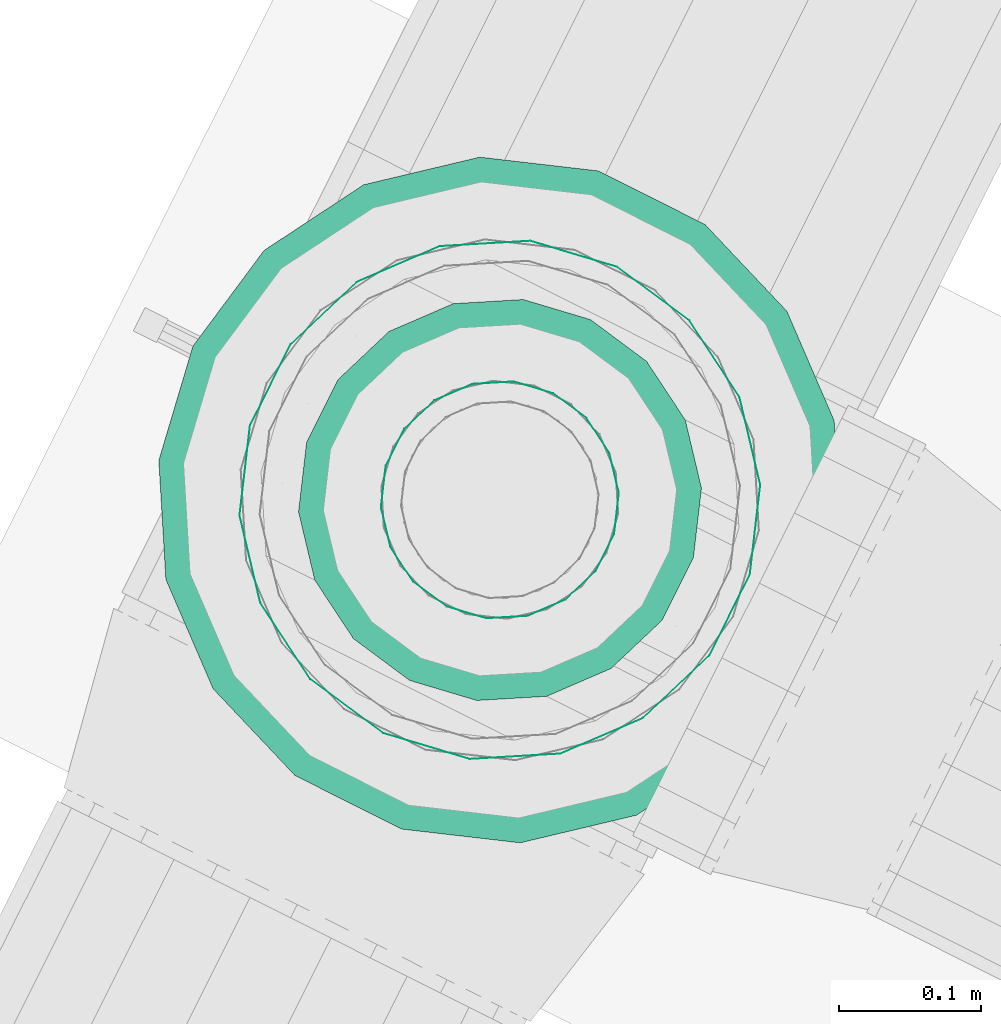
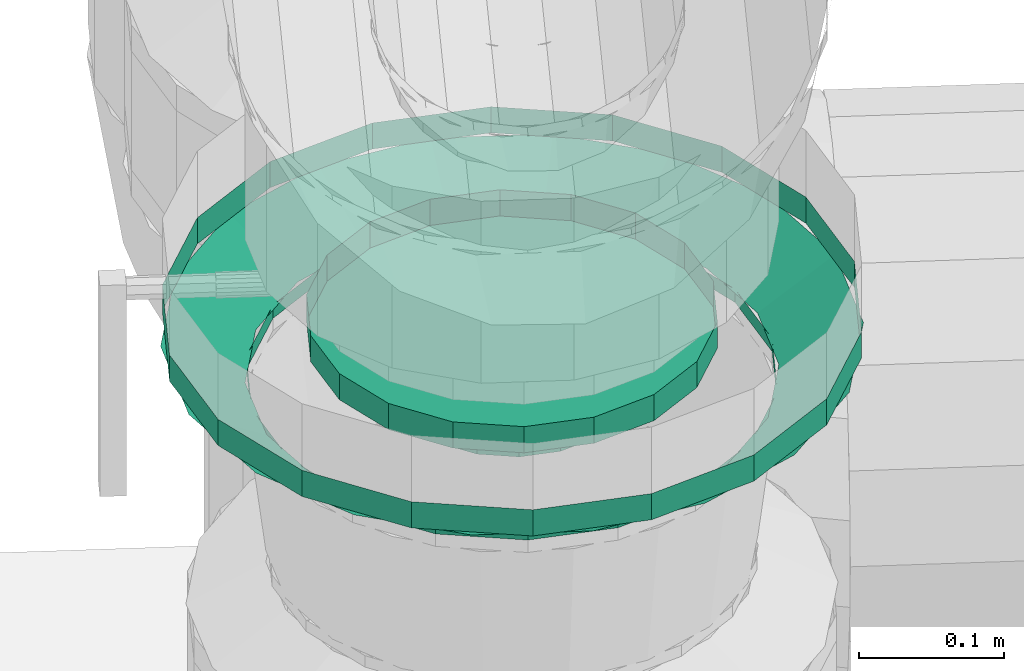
# One storey, part 108 of 152: 1 flow fitting, 1 flow segment.
"""IFC2X3 building model written with IfcOpenShell, lengths in metres."""

from ifc_helpers import new_model, si_unit, derived_unit, direction, frame, origin, place, context, subcontext, project, spatial, face_set, surface_model, source, transform, mapped, material, type_object, type_shapes, element, save


model = new_model("IFC2X3")

# Units and contexts
model_context = context("Model", 3, precision=5.2338327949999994e-05, world=origin(), true_north=direction((0.0, 1.0)))
body_context = subcontext(model_context, "Body", "Model", "MODEL_VIEW")
ifc_project = project(units=[si_unit("LENGTHUNIT", "METRE"), si_unit("AREAUNIT", "SQUARE_METRE"), si_unit("VOLUMEUNIT", "CUBIC_METRE"), si_unit("MASSUNIT", "GRAM", prefix="KILO"), si_unit("PLANEANGLEUNIT", "RADIAN"), derived_unit("THERMALTRANSMITTANCEUNIT", [(si_unit("MASSUNIT", "GRAM", prefix="KILO"), 1), (si_unit("THERMODYNAMICTEMPERATUREUNIT", "KELVIN"), -1), (si_unit("TIMEUNIT", "SECOND"), -3)])], contexts=[model_context])

# Site, building, storey
site_placement = place(None, frame((0.0, 0.0, 0.0), z_axis=(0.0, 0.0, 1.0), x_axis=(0.8939966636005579, -0.4480736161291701, 0.0)))
site = spatial("IfcSite", under=ifc_project, at=site_placement, Name="Default", CompositionType="ELEMENT")
building_placement = place(site_placement, origin())
building = spatial("IfcBuilding", under=site, at=building_placement, CompositionType="ELEMENT")
storey_placement = place(building_placement, frame((0.0, 0.0, 2.7499999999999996)))
storey = spatial("IfcBuildingStorey", under=building, at=storey_placement, Name="1. Obergeschoss", CompositionType="ELEMENT", Elevation=2.7499999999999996)

# Flow segment
ifc_material = material(Name="IfcSurfaceStyle #9317")
distribution_element_type_1 = type_object("IfcDistributionElementType", Name="Stahlrohr nach DIN 2448 236978:Stahlrohr nach DIN 2448 236978", material=ifc_material)
shared_shape_1 = source(origin(), body_context, "Body", "SurfaceModel", [
    surface_model("IfcFaceBasedSurfaceModel", [(9.625770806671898, 6.675898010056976, 4.47007198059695), (9.596989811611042, 6.670823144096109, 4.47007198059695), (9.596989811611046, 6.670823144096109, 4.481306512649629), (9.625770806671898, 6.675898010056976, 4.481306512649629), (9.571680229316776, 6.656210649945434, 4.47007198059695), (9.571680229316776, 6.656210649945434, 4.481306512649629), (9.552894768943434, 6.633823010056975, 4.47007198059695), (9.552894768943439, 6.633823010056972, 4.481306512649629), (9.542899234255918, 6.606360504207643, 4.47007198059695), (9.542899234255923, 6.606360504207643, 4.481306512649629), (9.542899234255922, 6.577135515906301, 4.47007198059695), (9.542899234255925, 6.577135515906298, 4.481306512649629), (9.552894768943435, 6.549673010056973, 4.47007198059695), (9.55289476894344, 6.549673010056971, 4.481306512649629), (9.571680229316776, 6.527285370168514, 4.47007198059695), (9.57168022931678, 6.527285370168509, 4.481306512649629), (9.59698981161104, 6.512672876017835, 4.47007198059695), (9.596989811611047, 6.512672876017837, 4.481306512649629), (9.625770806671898, 6.5075980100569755, 4.47007198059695), (9.625770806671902, 6.507598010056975, 4.481306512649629), (9.654551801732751, 6.512672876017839, 4.47007198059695), (9.654551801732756, 6.5126728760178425, 4.481306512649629), (9.679861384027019, 6.527285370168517, 4.47007198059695), (9.679861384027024, 6.527285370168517, 4.481306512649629), (9.698646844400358, 6.5496730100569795, 4.47007198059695), (9.698646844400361, 6.549673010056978, 4.481306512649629), (9.708642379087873, 6.577135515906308, 4.47007198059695), (9.708642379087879, 6.577135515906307, 4.481306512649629), (9.708642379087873, 6.606360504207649, 4.47007198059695), (9.708642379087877, 6.606360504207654, 4.481306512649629), (9.69864684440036, 6.63382301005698, 4.47007198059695), (9.69864684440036, 6.6338230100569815, 4.481306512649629), (9.67986138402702, 6.656210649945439, 4.47007198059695), (9.679861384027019, 6.656210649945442, 4.481306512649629), (9.654551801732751, 6.6708231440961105, 4.47007198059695), (9.654551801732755, 6.6708231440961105, 4.481306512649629), (9.625770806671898, 6.775898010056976, 4.47007198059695), (9.562787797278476, 6.764792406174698, 4.47007198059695), (9.562787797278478, 6.764792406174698, 4.481306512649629), (9.625770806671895, 6.775898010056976, 4.481306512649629), (9.507401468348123, 6.732815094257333, 4.47007198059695), (9.507401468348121, 6.732815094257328, 4.481306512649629), (9.466292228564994, 6.683823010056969, 4.47007198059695), (9.466292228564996, 6.683823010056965, 4.481306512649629), (9.4444184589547, 6.623725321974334, 4.47007198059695), (9.444418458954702, 6.62372532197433, 4.481306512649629), (9.444418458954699, 6.5597706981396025, 4.47007198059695), (9.444418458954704, 6.5597706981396, 4.481306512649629), (9.466292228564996, 6.499673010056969, 4.47007198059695), (9.466292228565, 6.4996730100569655, 4.481306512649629), (9.507401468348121, 6.450680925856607, 4.47007198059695), (9.507401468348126, 6.450680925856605, 4.481306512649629), (9.562787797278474, 6.418703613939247, 4.47007198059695), (9.562787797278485, 6.418703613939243, 4.481306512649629), (9.625770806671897, 6.407598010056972, 4.47007198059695), (9.625770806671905, 6.407598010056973, 4.481306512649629), (9.688753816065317, 6.418703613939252, 4.47007198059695), (9.688753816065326, 6.418703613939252, 4.481306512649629), (9.744140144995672, 6.450680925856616, 4.47007198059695), (9.74414014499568, 6.450680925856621, 4.481306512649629), (9.7852493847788, 6.499673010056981, 4.47007198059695), (9.785249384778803, 6.499673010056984, 4.481306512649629), (9.80712315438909, 6.559770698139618, 4.47007198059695), (9.807123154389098, 6.559770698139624, 4.481306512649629), (9.807123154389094, 6.623725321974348, 4.47007198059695), (9.807123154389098, 6.623725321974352, 4.481306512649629), (9.785249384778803, 6.683823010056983, 4.47007198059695), (9.785249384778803, 6.6838230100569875, 4.481306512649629), (9.744140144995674, 6.732815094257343, 4.47007198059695), (9.744140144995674, 6.732815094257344, 4.481306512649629), (9.688753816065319, 6.764792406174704, 4.47007198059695), (9.688753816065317, 6.764792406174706, 4.481306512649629)], [face_set([[[0, 1, 2, 3]], [[1, 4, 5, 2]], [[4, 6, 7, 5]], [[6, 8, 9, 7]], [[8, 10, 11, 9]], [[10, 12, 13, 11]], [[12, 14, 15, 13]], [[14, 16, 17, 15]], [[16, 18, 19, 17]], [[18, 20, 21, 19]], [[20, 22, 23, 21]], [[22, 24, 25, 23]], [[24, 26, 27, 25]], [[26, 28, 29, 27]], [[28, 30, 31, 29]], [[30, 32, 33, 31]], [[32, 34, 35, 33]], [[34, 0, 3, 35]], [[36, 37, 38, 39]], [[37, 40, 41, 38]], [[40, 42, 43, 41]], [[42, 44, 45, 43]], [[44, 46, 47, 45]], [[46, 48, 49, 47]], [[48, 50, 51, 49]], [[50, 52, 53, 51]], [[52, 54, 55, 53]], [[54, 56, 57, 55]], [[56, 58, 59, 57]], [[58, 60, 61, 59]], [[60, 62, 63, 61]], [[62, 64, 65, 63]], [[64, 66, 67, 65]], [[66, 68, 69, 67]], [[68, 70, 71, 69]], [[70, 36, 39, 71]]])]),
])
type_shapes(distribution_element_type_1, [shared_shape_1])
flow_segment_placement = place(storey_placement, frame((0.0, 0.0, -2.7499999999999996)))
element("IfcFlowSegment", 1, at=flow_segment_placement, inside=storey, type_object=distribution_element_type_1, material=ifc_material, Name="Stahlrohr nach DIN 2448", ObjectType="Stahlrohr nach DIN 2448", context=body_context, shape_type="MappedRepresentation", body=[
    mapped(shared_shape_1, transform((0.0, 0.0, 0.0), scale=1.0)),
])

# Flow fitting
distribution_element_type_2 = type_object("IfcDistributionElementType", Name="Flansch 237001:Flansch 237001", material=ifc_material)
shared_shape_2 = source(origin(), body_context, "Body", "SurfaceModel", [
    surface_model("IfcFaceBasedSurfaceModel", [(9.7099208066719, 6.591748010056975, 4.481306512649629), (9.704845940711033, 6.620529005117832, 4.481306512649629), (9.712222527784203, 6.623213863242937, 4.514306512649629), (9.717770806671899, 6.591748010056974, 4.51430651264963), (9.690233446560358, 6.645838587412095, 4.481306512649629), (9.696246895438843, 6.650884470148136, 4.514306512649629), (9.667845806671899, 6.664624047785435, 4.481306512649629), (9.6717708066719, 6.6714223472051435, 4.51430651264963), (9.64038330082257, 6.674619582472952, 4.481306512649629), (9.641746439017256, 6.682350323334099, 4.51430651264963), (9.611158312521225, 6.674619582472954, 4.481306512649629), (9.60979517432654, 6.682350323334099, 4.514306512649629), (9.583695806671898, 6.664624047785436, 4.4813065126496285), (9.579770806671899, 6.671422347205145, 4.514306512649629), (9.561308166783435, 6.645838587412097, 4.481306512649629), (9.555294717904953, 6.650884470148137, 4.514306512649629), (9.546695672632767, 6.62052900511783, 4.481306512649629), (9.539319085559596, 6.623213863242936, 4.51430651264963), (9.541620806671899, 6.591748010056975, 4.481306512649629), (9.533770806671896, 6.5917480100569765, 4.514306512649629), (9.546695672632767, 6.5629670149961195, 4.481306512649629), (9.539319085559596, 6.560282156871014, 4.514306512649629), (9.561308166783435, 6.537657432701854, 4.4813065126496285), (9.555294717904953, 6.5326115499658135, 4.514306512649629), (9.5836958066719, 6.518871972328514, 4.481306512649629), (9.5797708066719, 6.512073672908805, 4.51430651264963), (9.61115831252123, 6.508876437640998, 4.481306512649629), (9.60979517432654, 6.50114569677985, 4.51430651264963), (9.64038330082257, 6.508876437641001, 4.481306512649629), (9.641746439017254, 6.50114569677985, 4.51430651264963), (9.667845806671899, 6.5188719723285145, 4.481306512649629), (9.671770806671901, 6.512073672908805, 4.51430651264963), (9.69023344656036, 6.537657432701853, 4.481306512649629), (9.696246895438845, 6.532611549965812, 4.51430651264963), (9.704845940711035, 6.5629670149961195, 4.481306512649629), (9.712222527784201, 6.560282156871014, 4.514306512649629), (9.625770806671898, 6.449248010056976, 4.514306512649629), (9.67450867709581, 6.457841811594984, 4.514306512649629), (9.674508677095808, 6.457841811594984, 4.536306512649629), (9.6257708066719, 6.449248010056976, 4.536306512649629), (9.717368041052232, 6.482586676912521, 4.51430651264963), (9.717368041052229, 6.482586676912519, 4.536306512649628), (9.749179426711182, 6.520498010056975, 4.51430651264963), (9.749179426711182, 6.520498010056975, 4.536306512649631), (9.766105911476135, 6.5670031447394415, 4.514306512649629), (9.76610591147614, 6.567003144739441, 4.536306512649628), (9.766105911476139, 6.616492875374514, 4.514306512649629), (9.766105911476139, 6.616492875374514, 4.53630651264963), (9.749179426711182, 6.662998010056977, 4.51430651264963), (9.749179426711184, 6.662998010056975, 4.536306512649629), (9.717368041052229, 6.70090934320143, 4.514306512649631), (9.717368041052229, 6.70090934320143, 4.536306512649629), (9.674508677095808, 6.725654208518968, 4.51430651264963), (9.674508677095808, 6.725654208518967, 4.53630651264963), (9.6257708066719, 6.734248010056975, 4.51430651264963), (9.625770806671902, 6.734248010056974, 4.536306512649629), (9.577032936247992, 6.725654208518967, 4.514306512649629), (9.577032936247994, 6.725654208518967, 4.536306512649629), (9.534173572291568, 6.700909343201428, 4.514306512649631), (9.53417357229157, 6.700909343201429, 4.536306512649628), (9.502362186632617, 6.662998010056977, 4.51430651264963), (9.502362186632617, 6.662998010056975, 4.53630651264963), (9.48543570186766, 6.616492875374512, 4.51430651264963), (9.485435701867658, 6.6164928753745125, 4.536306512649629), (9.485435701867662, 6.567003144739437, 4.514306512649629), (9.485435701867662, 6.567003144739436, 4.536306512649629), (9.502362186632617, 6.520498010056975, 4.51430651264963), (9.502362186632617, 6.520498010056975, 4.53630651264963), (9.534173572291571, 6.482586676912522, 4.51430651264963), (9.534173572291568, 6.482586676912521, 4.536306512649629), (9.577032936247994, 6.457841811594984, 4.514306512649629), (9.577032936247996, 6.457841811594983, 4.536306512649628), (9.625770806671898, 6.591748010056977, 4.514306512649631), (9.8099208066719, 6.591748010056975, 4.48130651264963), (9.798815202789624, 6.654731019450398, 4.48130651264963), (9.853646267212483, 6.6746878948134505, 4.51430651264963), (9.868270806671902, 6.5917480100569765, 4.514306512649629), (9.766837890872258, 6.710117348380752, 4.481306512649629), (9.811536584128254, 6.747624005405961, 4.514306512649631), (9.7178458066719, 6.751226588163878, 4.4813065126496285), (9.747020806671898, 6.8017591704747, 4.51430651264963), (9.657748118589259, 6.773100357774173, 4.481306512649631), (9.667880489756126, 6.830563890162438, 4.514306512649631), (9.593793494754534, 6.773100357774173, 4.4813065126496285), (9.583661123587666, 6.830563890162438, 4.51430651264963), (9.533695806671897, 6.75122658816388, 4.4813065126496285), (9.504520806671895, 6.801759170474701, 4.51430651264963), (9.484703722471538, 6.710117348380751, 4.481306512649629), (9.440005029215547, 6.74762400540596, 4.51430651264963), (9.452726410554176, 6.654731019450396, 4.48130651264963), (9.397895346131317, 6.674687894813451, 4.51430651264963), (9.4416208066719, 6.5917480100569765, 4.481306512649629), (9.3832708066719, 6.5917480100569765, 4.514306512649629), (9.452726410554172, 6.528765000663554, 4.481306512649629), (9.397895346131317, 6.508808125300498, 4.514306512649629), (9.484703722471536, 6.473378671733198, 4.481306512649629), (9.440005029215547, 6.435872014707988, 4.51430651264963), (9.533695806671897, 6.43226943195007, 4.4813065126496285), (9.504520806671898, 6.3817368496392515, 4.514306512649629), (9.593793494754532, 6.410395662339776, 4.481306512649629), (9.583661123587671, 6.3529321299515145, 4.51430651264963), (9.657748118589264, 6.410395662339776, 4.481306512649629), (9.667880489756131, 6.3529321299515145, 4.51430651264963), (9.7178458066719, 6.432269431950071, 4.4813065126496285), (9.7470208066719, 6.3817368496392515, 4.514306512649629), (9.766837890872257, 6.473378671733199, 4.48130651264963), (9.811536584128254, 6.43587201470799, 4.514306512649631), (9.798815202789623, 6.528765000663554, 4.4813065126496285), (9.853646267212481, 6.508808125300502, 4.514306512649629), (9.625770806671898, 6.349248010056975, 4.514306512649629), (9.708710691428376, 6.363872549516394, 4.514306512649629), (9.708710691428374, 6.363872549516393, 4.536306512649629), (9.625770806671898, 6.349248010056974, 4.536306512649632), (9.781646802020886, 6.405982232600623, 4.51430651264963), (9.781646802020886, 6.405982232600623, 4.536306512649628), (9.835781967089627, 6.470498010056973, 4.514306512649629), (9.835781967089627, 6.470498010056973, 4.536306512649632), (9.864586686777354, 6.549638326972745, 4.51430651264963), (9.86458668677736, 6.549638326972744, 4.536306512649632), (9.864586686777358, 6.633857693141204, 4.514306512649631), (9.86458668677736, 6.633857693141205, 4.536306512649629), (9.835781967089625, 6.7129980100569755, 4.51430651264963), (9.835781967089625, 6.7129980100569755, 4.536306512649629), (9.781646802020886, 6.777513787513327, 4.514306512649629), (9.781646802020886, 6.777513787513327, 4.53630651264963), (9.708710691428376, 6.819623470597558, 4.514306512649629), (9.708710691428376, 6.819623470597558, 4.53630651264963), (9.6257708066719, 6.834248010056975, 4.514306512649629), (9.6257708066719, 6.834248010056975, 4.53630651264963), (9.542830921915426, 6.819623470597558, 4.514306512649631), (9.542830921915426, 6.819623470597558, 4.536306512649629), (9.469894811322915, 6.777513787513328, 4.51430651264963), (9.469894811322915, 6.777513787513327, 4.536306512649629), (9.415759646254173, 6.7129980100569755, 4.514306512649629), (9.415759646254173, 6.7129980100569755, 4.53630651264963), (9.386954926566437, 6.6338576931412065, 4.51430651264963), (9.386954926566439, 6.633857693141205, 4.536306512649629), (9.38695492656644, 6.549638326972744, 4.51430651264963), (9.386954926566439, 6.549638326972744, 4.536306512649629), (9.415759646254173, 6.470498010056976, 4.51430651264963), (9.415759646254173, 6.470498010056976, 4.53630651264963), (9.469894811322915, 6.405982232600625, 4.514306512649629), (9.469894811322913, 6.405982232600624, 4.536306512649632), (9.542830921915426, 6.363872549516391, 4.51430651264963), (9.542830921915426, 6.363872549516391, 4.536306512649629)], [face_set([[[0, 1, 2, 3]], [[1, 4, 5, 2]], [[4, 6, 7, 5]], [[6, 8, 9, 7]], [[8, 10, 11, 9]], [[10, 12, 13, 11]], [[12, 14, 15, 13]], [[14, 16, 17, 15]], [[16, 18, 19, 17]], [[18, 20, 21, 19]], [[20, 22, 23, 21]], [[22, 24, 25, 23]], [[24, 26, 27, 25]], [[26, 28, 29, 27]], [[28, 30, 31, 29]], [[30, 32, 33, 31]], [[32, 34, 35, 33]], [[34, 0, 3, 35]], [[36, 37, 38, 39]], [[37, 40, 41, 38]], [[40, 42, 43, 41]], [[42, 44, 45, 43]], [[44, 46, 47, 45]], [[46, 48, 49, 47]], [[48, 50, 51, 49]], [[50, 52, 53, 51]], [[52, 54, 55, 53]], [[54, 56, 57, 55]], [[56, 58, 59, 57]], [[58, 60, 61, 59]], [[60, 62, 63, 61]], [[62, 64, 65, 63]], [[64, 66, 67, 65]], [[66, 68, 69, 67]], [[68, 70, 71, 69]], [[70, 36, 39, 71]], [[72, 37, 36]], [[72, 40, 37]], [[72, 42, 40]], [[72, 44, 42]], [[72, 46, 44]], [[72, 48, 46]], [[72, 50, 48]], [[72, 52, 50]], [[72, 54, 52]], [[72, 56, 54]], [[72, 58, 56]], [[72, 60, 58]], [[72, 62, 60]], [[72, 64, 62]], [[72, 66, 64]], [[72, 68, 66]], [[72, 70, 68]], [[72, 36, 70]], [[73, 74, 75, 76]], [[74, 77, 78, 75]], [[77, 79, 80, 78]], [[79, 81, 82, 80]], [[81, 83, 84, 82]], [[83, 85, 86, 84]], [[85, 87, 88, 86]], [[87, 89, 90, 88]], [[89, 91, 92, 90]], [[91, 93, 94, 92]], [[93, 95, 96, 94]], [[95, 97, 98, 96]], [[97, 99, 100, 98]], [[99, 101, 102, 100]], [[101, 103, 104, 102]], [[103, 105, 106, 104]], [[105, 107, 108, 106]], [[107, 73, 76, 108]], [[109, 110, 111, 112]], [[110, 113, 114, 111]], [[113, 115, 116, 114]], [[115, 117, 118, 116]], [[117, 119, 120, 118]], [[119, 121, 122, 120]], [[121, 123, 124, 122]], [[123, 125, 126, 124]], [[125, 127, 128, 126]], [[127, 129, 130, 128]], [[129, 131, 132, 130]], [[131, 133, 134, 132]], [[133, 135, 136, 134]], [[135, 137, 138, 136]], [[137, 139, 140, 138]], [[139, 141, 142, 140]], [[141, 143, 144, 142]], [[143, 109, 112, 144]]])]),
])
type_shapes(distribution_element_type_2, [shared_shape_2])
flow_fitting_placement = place(storey_placement, frame((0.0, 0.0, -2.7499999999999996)))
element("IfcFlowFitting", 2, at=flow_fitting_placement, inside=storey, type_object=distribution_element_type_2, material=ifc_material, Name="Flansch", ObjectType="Flansch", context=body_context, shape_type="MappedRepresentation", body=[
    mapped(shared_shape_2, transform((0.0, 0.0, 0.0), scale=1.0)),
])

save(model, "model.ifc")
